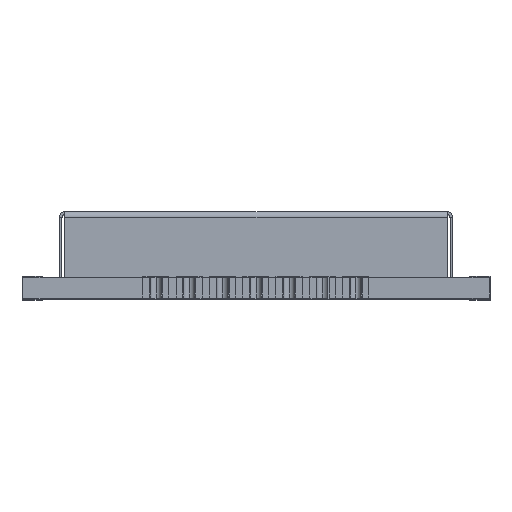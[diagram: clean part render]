
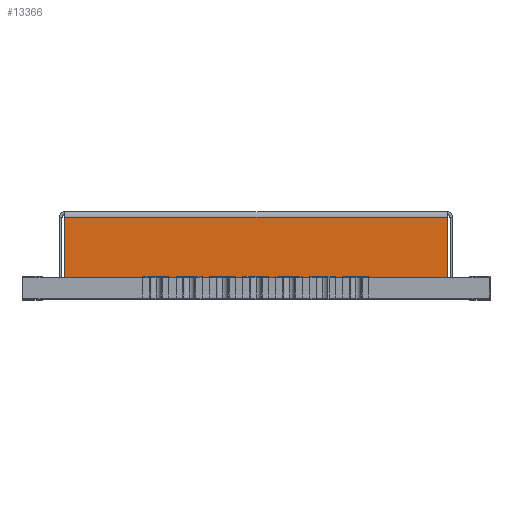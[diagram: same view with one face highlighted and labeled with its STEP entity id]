
A CAD part, top view. The second image highlights one B-rep face of the part: STEP entity #13366.
In plain terms, the highlighted planar face has unit normal (0, 0, 1).
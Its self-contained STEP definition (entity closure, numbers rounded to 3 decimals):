
#842 = ORIENTED_EDGE ( 'NONE', *, *, #8694, .F. ) ;
#1241 = CARTESIAN_POINT ( 'NONE',  ( -7.3, 0.1, 12.25 ) ) ;
#1265 = CARTESIAN_POINT ( 'NONE',  ( -7.3, 2.4, 12.25 ) ) ;
#3750 = DIRECTION ( 'NONE',  ( 0., 1., 0. ) ) ;
#5155 = EDGE_CURVE ( 'NONE', #47380, #55196, #45510, .T. ) ;
#5442 = CARTESIAN_POINT ( 'NONE',  ( 7.3, 2.4, 12.25 ) ) ;
#5794 = PLANE ( 'NONE',  #32901 ) ;
#8694 = EDGE_CURVE ( 'NONE', #57301, #30194, #30606, .T. ) ;
#11327 = ORIENTED_EDGE ( 'NONE', *, *, #5155, .T. ) ;
#12086 = VECTOR ( 'NONE', #24324, 1000. ) ;
#13366 = ADVANCED_FACE ( 'NONE', ( #38897 ), #5794, .F. ) ;
#14765 = DIRECTION ( 'NONE',  ( -1., 0., 0. ) ) ;
#22260 = VECTOR ( 'NONE', #3750, 1000. ) ;
#23834 = EDGE_CURVE ( 'NONE', #57301, #47380, #25084, .T. ) ;
#24324 = DIRECTION ( 'NONE',  ( 0., -1., 0. ) ) ;
#25084 = LINE ( 'NONE', #48298, #22260 ) ;
#27449 = ORIENTED_EDGE ( 'NONE', *, *, #36189, .T. ) ;
#30194 = VERTEX_POINT ( 'NONE', #48768 ) ;
#30606 = LINE ( 'NONE', #1241, #54338 ) ;
#32834 = ORIENTED_EDGE ( 'NONE', *, *, #23834, .T. ) ;
#32901 = AXIS2_PLACEMENT_3D ( 'NONE', #40937, #41539, #14765 ) ;
#36189 = EDGE_CURVE ( 'NONE', #55196, #30194, #46303, .T. ) ;
#36734 = DIRECTION ( 'NONE',  ( -1., 0., 0. ) ) ;
#38897 = FACE_OUTER_BOUND ( 'NONE', #52754, .T. ) ;
#40937 = CARTESIAN_POINT ( 'NONE',  ( 0., 0., 12.25 ) ) ;
#41539 = DIRECTION ( 'NONE',  ( 0., 0., -1. ) ) ;
#42739 = VECTOR ( 'NONE', #50024, 1000. ) ;
#45510 = LINE ( 'NONE', #45529, #42739 ) ;
#45529 = CARTESIAN_POINT ( 'NONE',  ( 0., 2.4, 12.25 ) ) ;
#46303 = LINE ( 'NONE', #51058, #12086 ) ;
#47380 = VERTEX_POINT ( 'NONE', #5442 ) ;
#48298 = CARTESIAN_POINT ( 'NONE',  ( 7.3, 0., 12.25 ) ) ;
#48768 = CARTESIAN_POINT ( 'NONE',  ( -7.3, 0.1, 12.25 ) ) ;
#50024 = DIRECTION ( 'NONE',  ( -1., 0., 0. ) ) ;
#51058 = CARTESIAN_POINT ( 'NONE',  ( -7.3, 0., 12.25 ) ) ;
#52754 = EDGE_LOOP ( 'NONE', ( #842, #32834, #11327, #27449 ) ) ;
#54338 = VECTOR ( 'NONE', #36734, 1000. ) ;
#55196 = VERTEX_POINT ( 'NONE', #1265 ) ;
#57077 = CARTESIAN_POINT ( 'NONE',  ( 7.3, 0.1, 12.25 ) ) ;
#57301 = VERTEX_POINT ( 'NONE', #57077 ) ;
